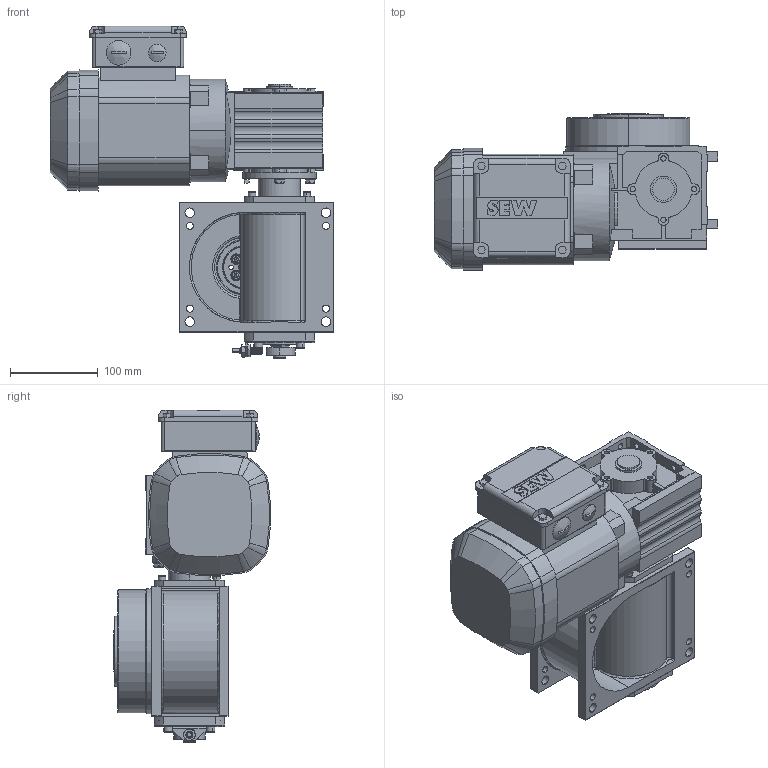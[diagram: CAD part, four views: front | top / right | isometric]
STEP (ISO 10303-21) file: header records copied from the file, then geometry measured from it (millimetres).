
FILE_DESCRIPTION (( 'STEP AP214' ), '1' );
FILE_NAME ('M140_SEW_WA20DRS71S4_E1.STEP', '2021-01-22T15:27:57', ( '' ), ( '' ), 'SwSTEP 2.0', 'SolidWorks 2020', '' );
FILE_SCHEMA (( 'AUTOMOTIVE_DESIGN' ));
Length unit declared in the file: millimetre
Products named in the file (1): M140_SEW_WA20DRS71S4_E1
Bounding box: 323 x 178.34 x 377.75 mm (x, y, z)
Surface area: 415367.9 mm2 (no closed solid volume)
Topology: 0 solids, 48 shells, 1138 faces, 3530 edges, 2342 vertices
Faces by surface type: plane 511, cylinder 410, cone 104, bspline 65, torus 48
Entity records: 58453 total; most frequent: CARTESIAN_POINT 15183, DIRECTION 6373, ORIENTED_EDGE 6077, EDGE_CURVE 3503, VERTEX_POINT 2342, AXIS2_PLACEMENT_3D 2233, VECTOR 1907, LINE 1907
